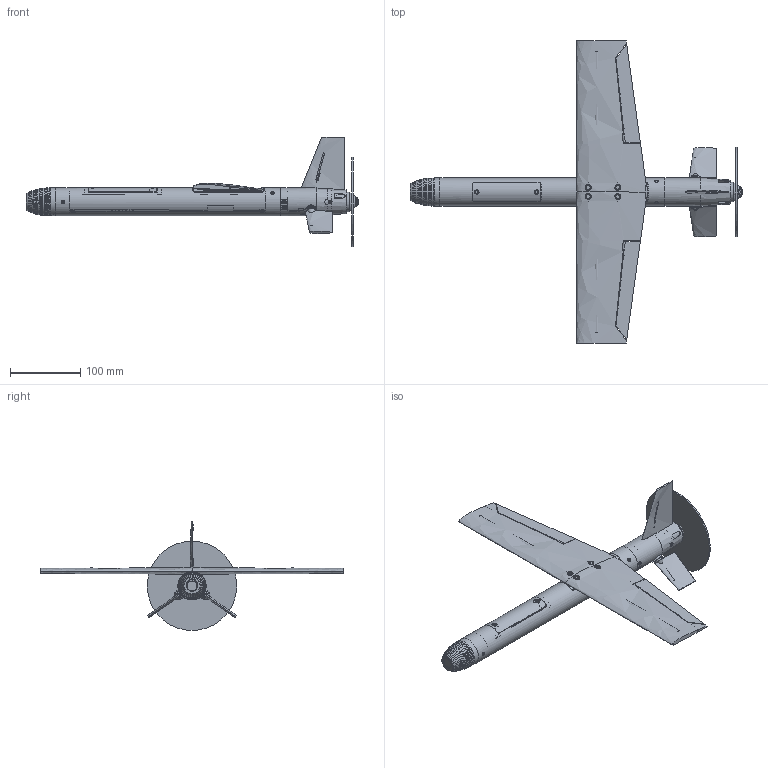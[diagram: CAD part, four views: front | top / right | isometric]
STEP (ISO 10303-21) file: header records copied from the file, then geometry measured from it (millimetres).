
FILE_DESCRIPTION(('SkyG Speed 90B - revision C6B-8 - 2026-10-10','C6B-assembly'),'2;1');
FILE_NAME('C6B-assembly_C6B-8','2026-10-10T23:18:30',('Author'),( 'Open CASCADE'),'Open CASCADE STEP processor 7.9','Open CASCADE 7.9' ,'Unknown');
FILE_SCHEMA(('AUTOMOTIVE_DESIGN { 1 0 10303 214 1 1 1 1 }'));
Length unit declared in the file: millimetre
Products named in the file (162): C4; N0M-nose-micro-camera; N0M-vtx-shelf; F3-tail-module; WR-wing-right; WL-wing-left; AR-aileron-right; AL-aileron-left; SR-stabilator-right; SL-stabilator-left; FN-fin; AHR-aileron-horn-right; AHL-aileron-horn-left; THR-tail-horn-right; THL-tail-horn-left; TR-equipment-tray; TC-tail-coupler; CW-countersunk-washer; NB1-wing-nut-bar-front; NB2-wing-nut-bar-rear; HL1-hatch-lip-front; HL2-hatch-lip-rear; HF-front-hatch; WF-wing-window-filler; HG-gps-carrier; M1-motor-plate; SP-spinner; ENV-scr_mplate_R; ENV-cw_13; ENV-scr_mplate_L; ENV-cw_14; ENV-motor; ENV-prop_disc; ENV-prop_hub_nut; ENV-battery; ENV-camera_micro19; ENV-cam_screws; ENV-O_o4_camera; ENV-O_o4_screws; ENV-O_o4_module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
Assembly tree (161 placements, depth 2):
  C4
    N0M-nose-micro-camera
    N0M-vtx-shelf
    F3-tail-module
    WR-wing-right
    WL-wing-left
    AR-aileron-right
    AL-aileron-left
    SR-stabilator-right
    SL-stabilator-left
    FN-fin
    AHR-aileron-horn-right
    AHL-aileron-horn-left
    THR-tail-horn-right
    THL-tail-horn-left
    TR-equipment-tray
    TC-tail-coupler
    CW-countersunk-washer
    NB1-wing-nut-bar-front
    NB2-wing-nut-bar-rear
    HL1-hatch-lip-front
    HL2-hatch-lip-rear
    HF-front-hatch
    WF-wing-window-filler
    HG-gps-carrier
    M1-motor-plate
    SP-spinner
    ENV-scr_mplate_R
    ENV-cw_13
    ENV-scr_mplate_L
    ENV-cw_14
    ENV-motor
    ENV-prop_disc
    ENV-prop_hub_nut
    ENV-battery
    ENV-camera_micro19
    ENV-cam_screws
    ENV-O_o4_camera
    ENV-O_o4_screws
    ENV-O_o4_module
    ENV-vtx
    ENV-gnss
    ENV-flight_controller
    ENV-ail_servo_arm
    ENV-ail_rod_R
    ENV-ail_link_R
    ENV-ail_rod_L
    ENV-ail_link_L
    ENV-ail_spine_R
    ENV-ail_spine_L
    ENV-receiver
    ENV-ant_elrs
    ENV-ant_vtx
    ENV-O_ant_video
    ENV-aileron_servo
    ENV-tail_servo_L
    ENV-tail_servo_R
    ENV-esc
    ENV-tail_servo_arm_R
    ENV-tail_link_R
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Bounding box: 472.19 x 430 x 155.1 mm (x, y, z)
Volume: 477614.9 mm3; surface area: 352979 mm2
Topology: 185 solids, 185 shells, 2644 faces, 6697 edges, 4433 vertices
Faces by surface type: plane 1705, cylinder 550, bspline 211, cone 145, torus 15, revolution 11, sphere 7
Full cylindrical faces by diameter (mm): 0.98 x6, 1.107 x11, 1.2 x22, 1.25 x8, 1.5 x2, 1.6 x34, 1.9 x1, 2 x32, 2.1 x2, 2.2 x22, 2.5 x2, 2.6 x4, 2.842 x6, 3 x17, 3.05 x2, 3.2 x8, 3.8 x2, 3.9 x3, 3.94 x3, 4 x4, 4.9 x14, 5 x12, 5.2 x3, 5.5 x4, 5.6 x3, 6 x5, 6.3 x2, 8 x4, 9 x1, 9.2 x1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
Entity records: 426895 total; most frequent: CARTESIAN_POINT 297842, DIRECTION 20512, ORIENTED_EDGE 13380, PCURVE 13380, DEFINITIONAL_REPRESENTATION 13380, LINE 9286, VECTOR 9286, EDGE_CURVE 6690
